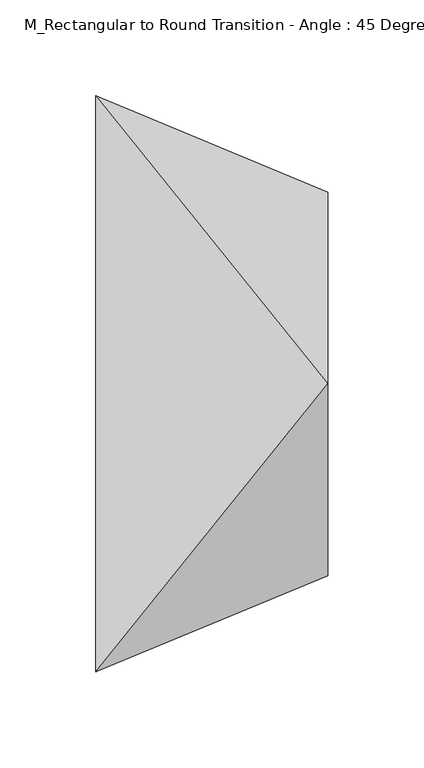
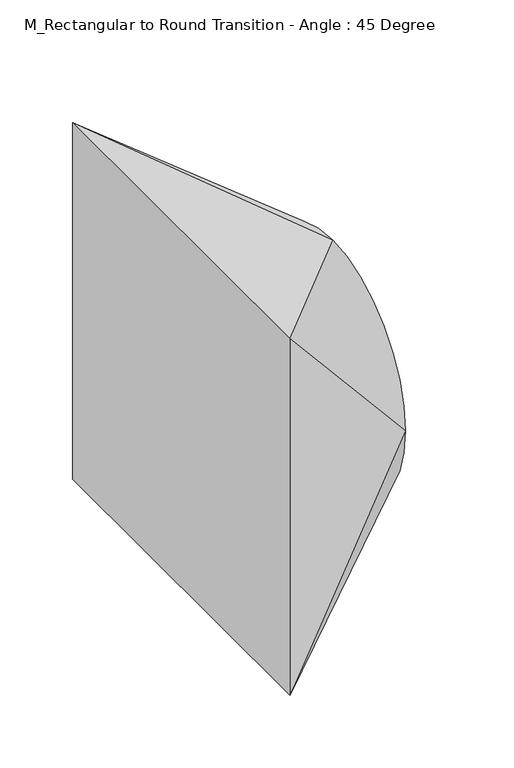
"""IFC4 building model written with IfcOpenShell, lengths in millimetres: duct fitting geometry, M_Rectangular to Round Transition - Angle : 45 Degree."""

from ifc_helpers import new_model, si_unit, frame, origin, place, context, project, spatial, circle_curve, source, transform, mapped, element, save
from ifc_brep_helpers import plane_surface, spline_surface, advanced_brep


def m_rectangular_to_round_transition_angle_45_degree_60daae35(model_context):
    return source(origin(), model_context, "Body", "AdvancedBrep", [
        advanced_brep(
        [(0.0, -150.0, -150.0), (0.0, -150.0, 150.0), (0.0, 150.0, 150.0), (0.0, 150.0, -150.0), (120.7106781, -100.0, 0.0), (120.7106781, 0.0, -100.0), (120.7106781, 100.0, 0.0), (120.7106781, 0.0, 100.0)],
        [
            (0, 1),
            (1, 2),
            (2, 3),
            (3, 0),
            (4, 5, circle_curve(frame((120.7106781, 0.0, 0.0), z_axis=(1.0, 0.0, 0.0), x_axis=(0.0, -1.0, 0.0)), 100.0)),
            (5, 6, circle_curve(frame((120.7106781, 0.0, 0.0), z_axis=(1.0, 0.0, 0.0), x_axis=(0.0, -1.0, 0.0)), 100.0)),
            (6, 7, circle_curve(frame((120.7106781, 0.0, 0.0), z_axis=(1.0, 0.0, 0.0), x_axis=(0.0, -1.0, 0.0)), 100.0)),
            (7, 4, circle_curve(frame((120.7106781, 0.0, 0.0), z_axis=(1.0, 0.0, 0.0), x_axis=(0.0, -1.0, 0.0)), 100.0)),
            (0, 4),
            (4, 1),
            (7, 1),
            (7, 2),
            (6, 2),
            (6, 3),
            (5, 3),
            (5, 0),
        ],
        [
            plane_surface(frame((0.0, 0.0, 0.0), z_axis=(-1.0, 0.0, 0.0), x_axis=(0.0, 1.0, 0.0))),
            plane_surface(frame((120.7106781, 0.0, 0.0), z_axis=(1.0, 0.0, 0.0), x_axis=(0.0, 1.0, 0.0))),
            plane_surface(frame((120.7106781, -100.0, 0.0), z_axis=(0.38268343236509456, -0.9238795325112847, 0.0), x_axis=(0.0, 0.0, 1.0))),
            spline_surface(2, 1, [[(120.7106781, -100.0, 0.0), (0.0, -150.0, 150.0)], [(120.7106781, -100.0, 100.0), (0.0, -150.0, 150.0)], [(120.7106781, 0.0, 100.0), (0.0, -150.0, 150.0)]], [3, 3], [2, 2], [0.0, 1.0], [0.0, 1.0], weights=[[1.0, 1.0], [0.7071067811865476, 0.7071067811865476], [1.0, 1.0]]),
            plane_surface(frame((120.7106781, 0.0, 100.0), z_axis=(0.38268343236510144, 0.0, 0.923879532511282), x_axis=(0.0, 1.0, 0.0))),
            spline_surface(2, 1, [[(120.7106781, 0.0, 100.0), (0.0, 150.0, 150.0)], [(120.7106781, 100.0, 100.0), (0.0, 150.0, 150.0)], [(120.7106781, 100.0, 0.0), (0.0, 150.0, 150.0)]], [3, 3], [2, 2], [0.0, 1.0], [0.0, 1.0], weights=[[1.0, 1.0], [0.7071067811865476, 0.7071067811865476], [1.0, 1.0]]),
            plane_surface(frame((120.7106781, 100.0, 0.0), z_axis=(0.38268343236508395, 0.9238795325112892, 0.0), x_axis=(0.0, 0.0, -1.0))),
            spline_surface(2, 1, [[(120.7106781, 100.0, 0.0), (0.0, 150.0, -150.0)], [(120.7106781, 100.0, -100.0), (0.0, 150.0, -150.0)], [(120.7106781, 0.0, -100.0), (0.0, 150.0, -150.0)]], [3, 3], [2, 2], [0.0, 1.0], [0.0, 1.0], weights=[[1.0, 1.0], [0.7071067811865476, 0.7071067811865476], [1.0, 1.0]]),
            plane_surface(frame((120.7106781, 0.0, -100.0), z_axis=(0.382683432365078, 0.0, -0.9238795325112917), x_axis=(0.0, -1.0, 0.0))),
            spline_surface(2, 1, [[(120.7106781, 0.0, -100.0), (0.0, -150.0, -150.0)], [(120.7106781, -100.0, -100.0), (0.0, -150.0, -150.0)], [(120.7106781, -100.0, 0.0), (0.0, -150.0, -150.0)]], [3, 3], [2, 2], [0.0, 1.0], [0.0, 1.0], weights=[[1.0, 1.0], [0.7071067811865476, 0.7071067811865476], [1.0, 1.0]]),
        ],
        [
            (0, [[1, 2, 3, 4]]),
            (1, [[5, 6, 7, 8]]),
            (2, [[-1, 9, 10]]),
            (3, [[-8, 11, -10]]),
            (4, [[-2, -11, 12]]),
            (5, [[-7, 13, -12]]),
            (6, [[-3, -13, 14]]),
            (7, [[-6, 15, -14]]),
            (8, [[-4, -15, 16]]),
            (9, [[-5, -9, -16]]),
        ],
    ),
        advanced_brep(
        [(0.0, -150.0, -150.0), (0.0, -150.0, 150.0), (0.0, 150.0, 150.0), (0.0, 150.0, -150.0), (120.7106781, -100.0, 0.0), (120.7106781, 0.0, -100.0), (120.7106781, 100.0, 0.0), (120.7106781, 0.0, 100.0)],
        [
            (0, 1),
            (1, 2),
            (2, 3),
            (3, 0),
            (4, 5, circle_curve(frame((120.7106781, 0.0, 0.0), z_axis=(1.0, 0.0, 0.0), x_axis=(0.0, -1.0, 0.0)), 100.0)),
            (5, 6, circle_curve(frame((120.7106781, 0.0, 0.0), z_axis=(1.0, 0.0, 0.0), x_axis=(0.0, -1.0, 0.0)), 100.0)),
            (6, 7, circle_curve(frame((120.7106781, 0.0, 0.0), z_axis=(1.0, 0.0, 0.0), x_axis=(0.0, -1.0, 0.0)), 100.0)),
            (7, 4, circle_curve(frame((120.7106781, 0.0, 0.0), z_axis=(1.0, 0.0, 0.0), x_axis=(0.0, -1.0, 0.0)), 100.0)),
            (0, 4),
            (4, 1),
            (7, 1),
            (7, 2),
            (6, 2),
            (6, 3),
            (5, 3),
            (5, 0),
        ],
        [
            plane_surface(frame((0.0, 0.0, 0.0), z_axis=(-1.0, 0.0, 0.0), x_axis=(0.0, 1.0, 0.0))),
            plane_surface(frame((120.7106781, 0.0, 0.0), z_axis=(1.0, 0.0, 0.0), x_axis=(0.0, 1.0, 0.0))),
            plane_surface(frame((120.7106781, -100.0, 0.0), z_axis=(0.3826834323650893, -0.9238795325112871, 0.0), x_axis=(0.0, 0.0, 1.0))),
            spline_surface(2, 1, [[(120.7106781, -100.0, 0.0), (0.0, -150.0, 150.0)], [(120.7106781, -100.0, 100.0), (0.0, -150.0, 150.0)], [(120.7106781, 0.0, 100.0), (0.0, -150.0, 150.0)]], [3, 3], [2, 2], [0.0, 1.0], [0.0, 1.0], weights=[[1.0, 1.0], [0.7071067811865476, 0.7071067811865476], [1.0, 1.0]]),
            plane_surface(frame((120.7106781, 0.0, 100.0), z_axis=(0.3826834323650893, 0.0, 0.9238795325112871), x_axis=(0.0, 1.0, 0.0))),
            spline_surface(2, 1, [[(120.7106781, 0.0, 100.0), (0.0, 150.0, 150.0)], [(120.7106781, 100.0, 100.0), (0.0, 150.0, 150.0)], [(120.7106781, 100.0, 0.0), (0.0, 150.0, 150.0)]], [3, 3], [2, 2], [0.0, 1.0], [0.0, 1.0], weights=[[1.0, 1.0], [0.7071067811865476, 0.7071067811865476], [1.0, 1.0]]),
            plane_surface(frame((120.7106781, 100.0, 0.0), z_axis=(0.38268343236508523, 0.9238795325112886, 0.0), x_axis=(0.0, 0.0, -1.0))),
            spline_surface(2, 1, [[(120.7106781, 100.0, 0.0), (0.0, 150.0, -150.0)], [(120.7106781, 100.0, -100.0), (0.0, 150.0, -150.0)], [(120.7106781, 0.0, -100.0), (0.0, 150.0, -150.0)]], [3, 3], [2, 2], [0.0, 1.0], [0.0, 1.0], weights=[[1.0, 1.0], [0.7071067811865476, 0.7071067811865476], [1.0, 1.0]]),
            plane_surface(frame((120.7106781, 0.0, -100.0), z_axis=(0.3826834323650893, 0.0, -0.9238795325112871), x_axis=(0.0, -1.0, 0.0))),
            spline_surface(2, 1, [[(120.7106781, 0.0, -100.0), (0.0, -150.0, -150.0)], [(120.7106781, -100.0, -100.0), (0.0, -150.0, -150.0)], [(120.7106781, -100.0, 0.0), (0.0, -150.0, -150.0)]], [3, 3], [2, 2], [0.0, 1.0], [0.0, 1.0], weights=[[1.0, 1.0], [0.7071067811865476, 0.7071067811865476], [1.0, 1.0]]),
        ],
        [
            (0, [[1, 2, 3, 4]]),
            (1, [[5, 6, 7, 8]]),
            (2, [[-1, 9, 10]]),
            (3, [[-8, 11, -10]]),
            (4, [[-2, -11, 12]]),
            (5, [[-7, 13, -12]]),
            (6, [[-3, -13, 14]]),
            (7, [[-6, 15, -14]]),
            (8, [[-4, -15, 16]]),
            (9, [[-5, -9, -16]]),
        ],
    ),
        advanced_brep(
        [(120.7106781, 0.0, 100.0), (120.7106781, -100.0, 0.0), (120.7106781, 0.0, -100.0), (120.7106781, 100.0, 0.0), (0.0, -150.0, 150.0), (0.0, 150.0, 150.0), (0.0, 150.0, -150.0), (0.0, -150.0, -150.0)],
        [
            (0, 1, circle_curve(frame((120.7106781, 0.0, 0.0), z_axis=(1.0, 0.0, 0.0), x_axis=(0.0, 1.0, 0.0)), 100.0)),
            (1, 2, circle_curve(frame((120.7106781, 0.0, 0.0), z_axis=(1.0, 0.0, 0.0), x_axis=(0.0, 1.0, 0.0)), 100.0)),
            (2, 3, circle_curve(frame((120.7106781, 0.0, 0.0), z_axis=(1.0, 0.0, 0.0), x_axis=(0.0, 1.0, 0.0)), 100.0)),
            (3, 0, circle_curve(frame((120.7106781, 0.0, 0.0), z_axis=(1.0, 0.0, 0.0), x_axis=(0.0, 1.0, 0.0)), 100.0)),
            (4, 5),
            (5, 6),
            (6, 7),
            (7, 4),
            (0, 4),
            (4, 1),
            (7, 1),
            (7, 2),
            (6, 2),
            (6, 3),
            (5, 3),
            (5, 0),
        ],
        [
            plane_surface(frame((120.7106781, 0.0, 0.0), z_axis=(1.0, 0.0, 0.0), x_axis=(0.0, 0.0, -1.0))),
            plane_surface(frame((0.0, 0.0, 0.0), z_axis=(-1.0, 0.0, 0.0), x_axis=(0.0, 0.0, -1.0))),
            spline_surface(2, 1, [[(0.0, -150.0, 150.0), (120.7106781, 0.0, 100.0)], [(0.0, -150.0, 150.0), (120.7106781, -100.0, 100.0)], [(0.0, -150.0, 150.0), (120.7106781, -100.0, 0.0)]], [3, 3], [2, 2], [0.0, 1.0], [0.0, 1.0], weights=[[1.0, 1.0], [0.7071067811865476, 0.7071067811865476], [1.0, 1.0]]),
            plane_surface(frame((0.0, -150.0, 0.0), z_axis=(0.3826834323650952, -0.9238795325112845, 0.0), x_axis=(0.0, 0.0, -1.0))),
            spline_surface(2, 1, [[(0.0, -150.0, -150.0), (120.7106781, -100.0, 0.0)], [(0.0, -150.0, -150.0), (120.7106781, -100.0, -100.0)], [(0.0, -150.0, -150.0), (120.7106781, 0.0, -100.0)]], [3, 3], [2, 2], [0.0, 1.0], [0.0, 1.0], weights=[[1.0, 1.0], [0.7071067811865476, 0.7071067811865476], [1.0, 1.0]]),
            plane_surface(frame((0.0, 0.0, -150.0), z_axis=(0.38268343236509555, 0.0, -0.9238795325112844), x_axis=(0.0, 1.0, 0.0))),
            spline_surface(2, 1, [[(0.0, 150.0, -150.0), (120.7106781, 0.0, -100.0)], [(0.0, 150.0, -150.0), (120.7106781, 100.0, -100.0)], [(0.0, 150.0, -150.0), (120.7106781, 100.0, 0.0)]], [3, 3], [2, 2], [0.0, 1.0], [0.0, 1.0], weights=[[1.0, 1.0], [0.7071067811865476, 0.7071067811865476], [1.0, 1.0]]),
            plane_surface(frame((0.0, 150.0, 0.0), z_axis=(0.38268343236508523, 0.9238795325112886, 0.0), x_axis=(0.0, 0.0, 1.0))),
            spline_surface(2, 1, [[(0.0, 150.0, 150.0), (120.7106781, 100.0, 0.0)], [(0.0, 150.0, 150.0), (120.7106781, 100.0, 100.0)], [(0.0, 150.0, 150.0), (120.7106781, 0.0, 100.0)]], [3, 3], [2, 2], [0.0, 1.0], [0.0, 1.0], weights=[[1.0, 1.0], [0.7071067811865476, 0.7071067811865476], [1.0, 1.0]]),
            plane_surface(frame((0.0, 0.0, 150.0), z_axis=(0.3826834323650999, 0.0, 0.9238795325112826), x_axis=(0.0, -1.0, 0.0))),
        ],
        [
            (0, [[1, 2, 3, 4]]),
            (1, [[5, 6, 7, 8]]),
            (2, [[-1, 9, 10]]),
            (3, [[-8, 11, -10]]),
            (4, [[-2, -11, 12]]),
            (5, [[-7, 13, -12]]),
            (6, [[-3, -13, 14]]),
            (7, [[-6, 15, -14]]),
            (8, [[-4, -15, 16]]),
            (9, [[-5, -9, -16]]),
        ],
    ),
    ])


if __name__ == "__main__":
    model = new_model("IFC4")
    model_context = context("Model", 3, world=origin())
    ifc_project = project(units=[si_unit("LENGTHUNIT", "METRE", prefix="MILLI")], contexts=[model_context])
    site = spatial("IfcSite", under=ifc_project)
    building = spatial("IfcBuilding", under=site)
    placement = place(None, origin())
    m_rectangular_to_round_transition_angle_45_degree_shape = m_rectangular_to_round_transition_angle_45_degree_60daae35(model_context)
    element("IfcDuctFitting", 1, ObjectType="M_Rectangular to Round Transition - Angle : 45 Degree", at=placement, inside=building, context=model_context, shape_type="MappedRepresentation", body=[
        mapped(m_rectangular_to_round_transition_angle_45_degree_shape, transform((0.0, 0.0, 0.0), x_axis=(1.0, 0.0, 0.0), y_axis=(0.0, 1.0, 0.0), z_axis=(0.0, 0.0, 1.0))),
    ])
    save(model, "model.ifc")
